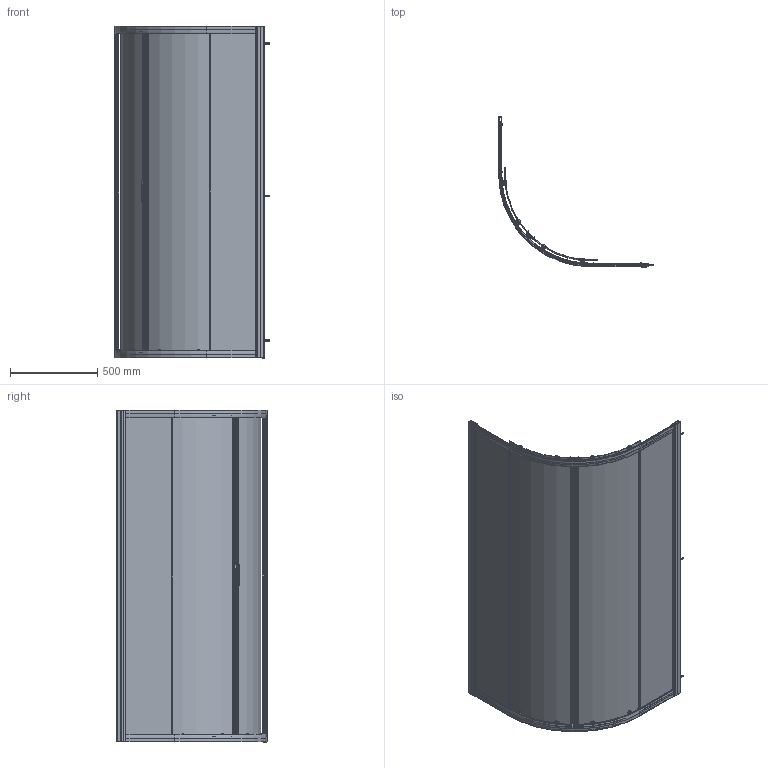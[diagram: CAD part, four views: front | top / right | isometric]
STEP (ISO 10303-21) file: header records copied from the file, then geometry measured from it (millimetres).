
FILE_DESCRIPTION(/* description */ ('VERTICALE TELAIO'),/* implementation_level */ '2;1');
FILE_NAME(/* name */ 'C:\Users\benassi\Desktop\dwg 3D\America quattro 2019\America 4 tondo 86-90.stp',/* time_stamp */ '2018-07-17T16:06:50+02:00',/* author */ ('benassi'),/* organization */ (''),/* preprocessor_version */ 'ST-DEVELOPER v16.1',/* originating_system */ 'Autodesk Inventor 2016',/* authorisation */ '');
FILE_SCHEMA (('AUTOMOTIVE_DESIGN { 1 0 10303 214 3 1 1 }'));
Products named in the file (36): 10000021273; 10000012477; 10000013432; 10000013433; 10000013434; 10000021285; 10000021365; 10000021366; 10000021295; 10000021296; 10000021370; 10000008180; 10000000326_IPT_000; 10000004202_IPT_000; 10000021368; 10000021373; 10000021374; 10000000465_IPT_000; 10000021369; 10000002067_IPT_000; 10000021367; 10000021375; 10000019036; 10000019034; ISO 7049 - ST 3,5 x 9,5 - F - H; 10000016783; 10000016783_1; 10000020348; 10000020348_1; 10000021418; ISO 7050 - ST 3,5 x 13 - C - Z; ISO 7049 - ST 4,2 x 32 - C - H; 158038; 10000020373; ISO 7050 - ST 3,5 x 13 - C - H; 10000021371
Assembly tree (84 placements, depth 3):
  10000021371
    10000021273  x2
    10000012477  x2
    10000013434  x4
      10000013432
      10000013433
    10000021285  x8
    10000021365  x2
    10000021366  x2
    10000021295  x2
    10000021296  x2
    10000021368  x4
      10000021370
      10000008180
      10000000326_IPT_000
      10000004202_IPT_000
    10000021373  x2
    10000021374  x8
    10000021367  x4
      10000000465_IPT_000
      10000004202_IPT_000
      10000021369
      10000002067_IPT_000
    10000021375  x2
    10000019036  x2
    10000019034  x2
    ISO 7049 - ST 3,5 x 9,5 - F - H  x4
    10000016783
    10000016783_1
    10000020348
    10000020348_1
    10000021418  x4
    ISO 7050 - ST 3,5 x 13 - C - Z  x4
    ISO 7049 - ST 4,2 x 32 - C - H  x3
    158038  x3
    10000020373  x2
    ISO 7050 - ST 3,5 x 13 - C - H  x2
Bounding box: 889.37 x 858.67 x 1900 mm (x, y, z)
Volume: 12397452.1 mm3; surface area: 8811845.3 mm2
Topology: 102 solids, 102 shells, 5103 faces, 13011 edges, 8367 vertices
Faces by surface type: plane 3059, cylinder 926, bspline 426, cone 407, torus 230, sphere 55
Full cylindrical faces by diameter (mm): 2.75 x4, 3 x12, 3.242 x4, 3.5 x18, 3.6 x4, 3.7 x4, 3.9 x4, 4 x31, 4.134 x4, 4.2 x3, 4.5 x4, 5 x20, 5.3 x4, 5.5 x8, 6.2 x3, 6.3 x4, 6.7 x4, 6.8 x4, 7 x20, 7.3 x10, 7.6 x8, 8 x20, 8.2 x3, 9 x20, 10 x8
Entity records: 55670 total; most frequent: CARTESIAN_POINT 13121, ORIENTED_EDGE 8646, DIRECTION 8309, EDGE_CURVE 4321, VERTEX_POINT 2836, AXIS2_PLACEMENT_3D 2819, LINE 2671, VECTOR 2671
